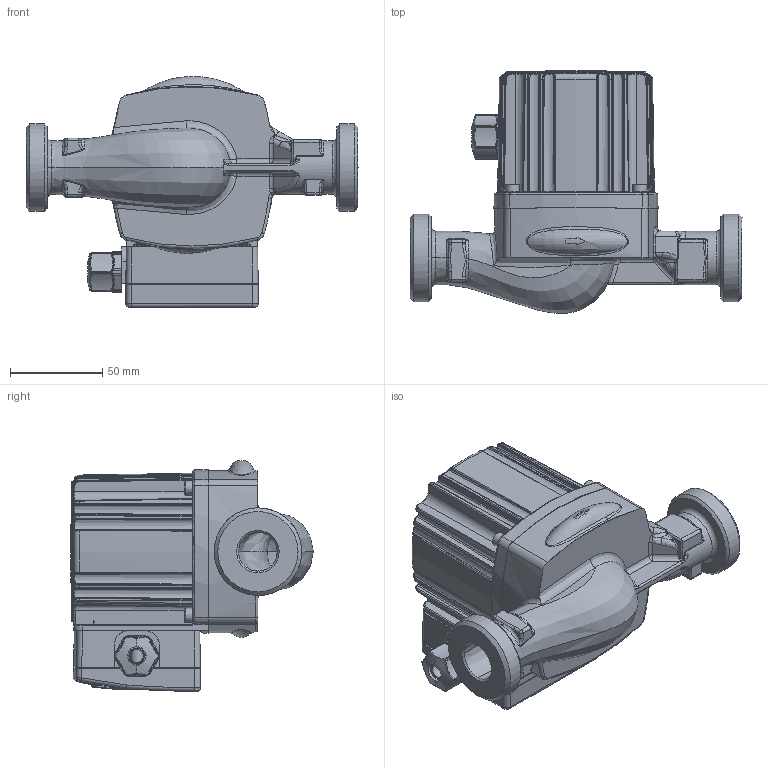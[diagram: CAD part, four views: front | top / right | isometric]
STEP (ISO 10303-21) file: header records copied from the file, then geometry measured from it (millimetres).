
FILE_DESCRIPTION(('STEP AP242'), '1');
FILE_NAME('VRS.254.18 256.18', '2025-10-08T11:50:49', (''), (''), 'C3D Converter', 'C3D Toolkit', '');
FILE_SCHEMA(('AP242_MANAGED_MODEL_BASED_3D_ENGINEERING_MIM_LF { 1 0 10303 442 1 1 4 }'));
Length unit declared in the file: millimetre
Products named in the file (1): 25-4E-180_ASM
Bounding box: 180 x 131.61 x 125.17 mm (x, y, z)
Volume: 299224.7 mm3; surface area: 175387.1 mm2
Topology: 6 solids, 26 shells, 2512 faces, 6300 edges, 3795 vertices
Faces by surface type: plane 672, cylinder 667, bspline 503, torus 484, cone 115, sphere 66, extrusion 5
Full cylindrical faces by diameter (mm): 3 x4, 3.3 x4, 4 x6, 4.2 x4, 4.5 x3, 5 x7, 7 x3, 7.5 x5, 7.6 x4, 8 x2, 9 x2, 10 x3, 12 x1, 14 x2, 16 x1, 17.1 x1, 19 x2, 21 x1, 23.5 x1, 25.6 x1, 26 x1, 28 x1, 28.5 x1, 29 x1, 32.5 x1, 35.5 x1, 38.25 x1, 39 x1, 47.5 x2, 71 x1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
Entity records: 250545 total; most frequent: CARTESIAN_POINT 189315, ORIENTED_EDGE 11930, DIRECTION 7937, EDGE_CURVE 5965, VERTEX_POINT 3751, AXIS2_PLACEMENT_3D 3180, B_SPLINE_CURVE_WITH_KNOTS 3109, EDGE_LOOP 2769
